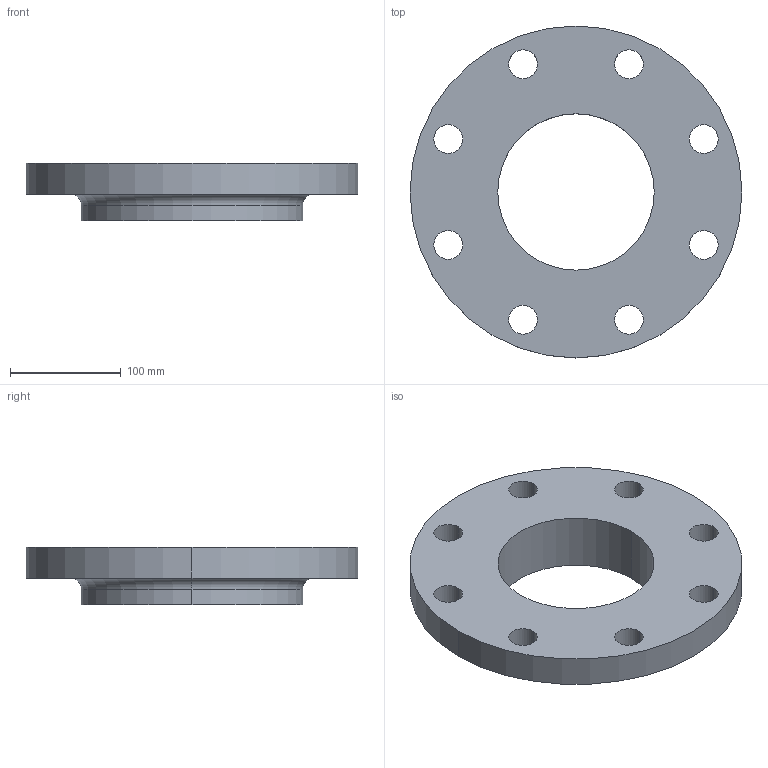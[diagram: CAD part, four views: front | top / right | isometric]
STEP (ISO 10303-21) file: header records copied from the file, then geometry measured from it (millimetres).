
FILE_DESCRIPTION (( 'STEP AP214' ), '1' );
FILE_NAME ('PN40 DN150 Type 13 - Type A Face.STEP', '2019-01-04T21:58:20', ( '' ), ( '' ), 'SwSTEP 2.0', 'SolidWorks 2019', '' );
FILE_SCHEMA (( 'AUTOMOTIVE_DESIGN' ));
Length unit declared in the file: millimetre
Products named in the file (1): PN40 DN150 Type 13 - Type A Face
Bounding box: 300 x 300 x 52 mm (x, y, z)
Volume: 1812167.9 mm3; surface area: 181700.1 mm2
Topology: 1 solids, 1 shells, 27 faces, 70 edges, 46 vertices
Faces by surface type: cylinder 22, plane 3, torus 2
Entity records: 926 total; most frequent: DIRECTION 174, CARTESIAN_POINT 144, ORIENTED_EDGE 140, AXIS2_PLACEMENT_3D 76, EDGE_CURVE 70, CIRCLE 48, EDGE_LOOP 46, VERTEX_POINT 46
